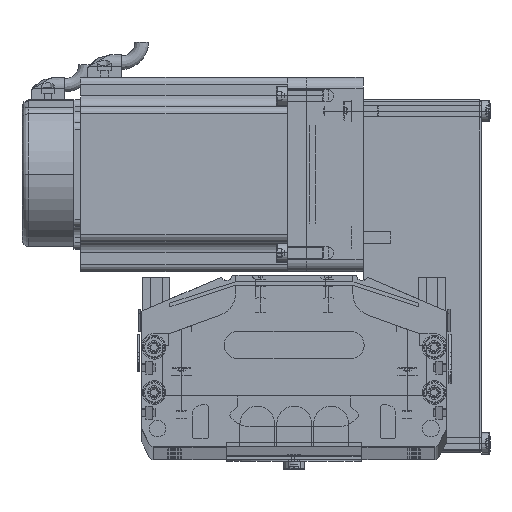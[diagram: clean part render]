
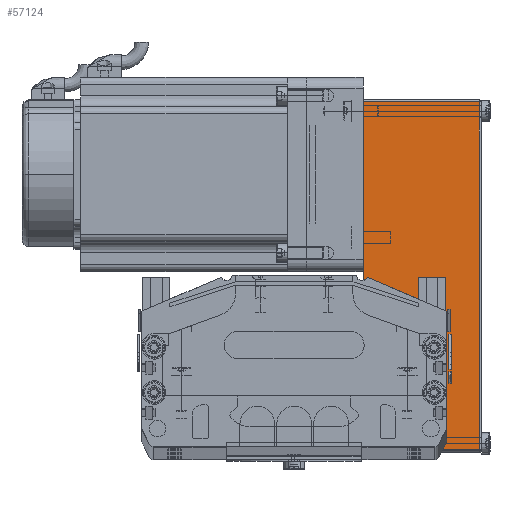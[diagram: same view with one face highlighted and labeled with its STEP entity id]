
A CAD part, top view. The second image highlights one B-rep face of the part: STEP entity #57124.
In plain terms, the highlighted planar face has unit normal (0, 0, 1) as drawn and (0, -1, 0) by its records, which use the part's own axes.
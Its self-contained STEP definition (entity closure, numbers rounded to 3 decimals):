
#3884 = CARTESIAN_POINT ( 'NONE',  ( -123.2, -40., 0. ) ) ;
#11257 = CARTESIAN_POINT ( 'NONE',  ( 31., -40., 0. ) ) ;
#11261 = DIRECTION ( 'NONE',  ( 1., 0., 0. ) ) ;
#11263 = VECTOR ( 'NONE', #11261, 1000. ) ;
#11268 = CARTESIAN_POINT ( 'NONE',  ( 32., -40., 0. ) ) ;
#11269 = LINE ( 'NONE', #11268, #11263 ) ;
#11940 = DIRECTION ( 'NONE',  ( 0., 0., 1. ) ) ;
#11941 = VECTOR ( 'NONE', #11940, 1000. ) ;
#11942 = CARTESIAN_POINT ( 'NONE',  ( 31., -40., 52.5 ) ) ;
#11947 = LINE ( 'NONE', #11942, #11941 ) ;
#12350 = CARTESIAN_POINT ( 'NONE',  ( -123.2, -40., 51.5 ) ) ;
#12972 = DIRECTION ( 'NONE',  ( 0., 0., -1. ) ) ;
#12973 = VECTOR ( 'NONE', #12972, 1000. ) ;
#13081 = FACE_OUTER_BOUND ( 'NONE', #57127, .T. ) ;
#13100 = DIRECTION ( 'NONE',  ( -1., 0., 0. ) ) ;
#13101 = VECTOR ( 'NONE', #13100, 1000. ) ;
#13103 = CARTESIAN_POINT ( 'NONE',  ( 32., -40., 51.5 ) ) ;
#13105 = LINE ( 'NONE', #13103, #13101 ) ;
#13165 = CARTESIAN_POINT ( 'NONE',  ( 32., -40., 52.5 ) ) ;
#13194 = CARTESIAN_POINT ( 'NONE',  ( -123.2, -40., 52.5 ) ) ;
#13195 = LINE ( 'NONE', #13194, #12973 ) ;
#13315 = CARTESIAN_POINT ( 'NONE',  ( 31., -40., 51.5 ) ) ;
#13333 = AXIS2_PLACEMENT_3D ( 'NONE', #13165, #13373, #13372 ) ;
#13340 = PLANE ( 'NONE',  #13333 ) ;
#13372 = DIRECTION ( 'NONE',  ( -1., 0., 0. ) ) ;
#13373 = DIRECTION ( 'NONE',  ( 0., 1., 0. ) ) ;
#54652 = VERTEX_POINT ( 'NONE', #3884 ) ;
#56717 = EDGE_CURVE ( 'NONE', #54652, #56724, #11269, .T. ) ;
#56724 = VERTEX_POINT ( 'NONE', #11257 ) ;
#56741 = ORIENTED_EDGE ( 'NONE', *, *, #56717, .T. ) ;
#56813 = EDGE_CURVE ( 'NONE', #56724, #57194, #11947, .T. ) ;
#56911 = VERTEX_POINT ( 'NONE', #12350 ) ;
#57124 = ADVANCED_FACE ( 'NONE', ( #13081 ), #13340, .F. ) ;
#57127 = EDGE_LOOP ( 'NONE', ( #56741, #57129, #57216, #57235 ) ) ;
#57129 = ORIENTED_EDGE ( 'NONE', *, *, #56813, .T. ) ;
#57130 = EDGE_CURVE ( 'NONE', #57194, #56911, #13105, .T. ) ;
#57194 = VERTEX_POINT ( 'NONE', #13315 ) ;
#57216 = ORIENTED_EDGE ( 'NONE', *, *, #57130, .T. ) ;
#57217 = EDGE_CURVE ( 'NONE', #56911, #54652, #13195, .T. ) ;
#57235 = ORIENTED_EDGE ( 'NONE', *, *, #57217, .T. ) ;
